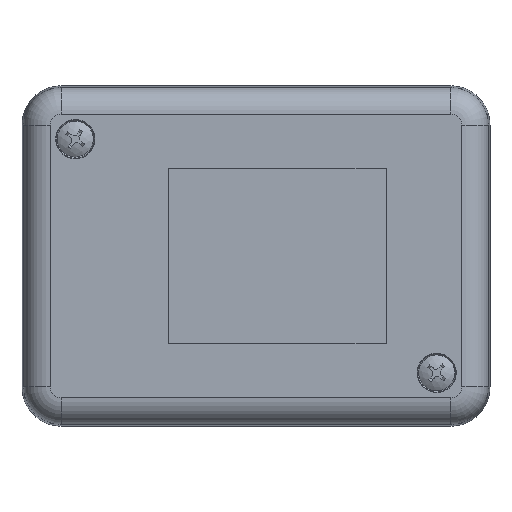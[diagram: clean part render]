
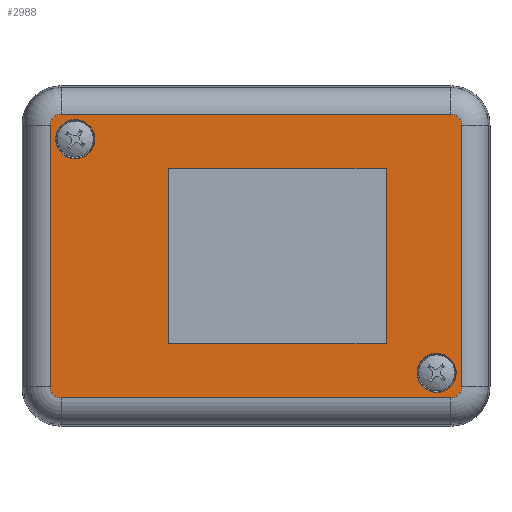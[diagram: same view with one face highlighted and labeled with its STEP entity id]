
A CAD part, front view. The second image highlights one B-rep face of the part: STEP entity #2988.
In plain terms, the highlighted planar face has unit normal (0, -1, 0).
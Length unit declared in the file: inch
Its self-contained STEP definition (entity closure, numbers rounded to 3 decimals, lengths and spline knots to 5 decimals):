
#34 = CIRCLE ( 'NONE', #2732, 0.0633 ) ;
#46 = CARTESIAN_POINT ( 'NONE',  ( 1.2093, -0.356, -0.77 ) ) ;
#62 = VERTEX_POINT ( 'NONE', #324 ) ;
#111 = LINE ( 'NONE', #3750, #3036 ) ;
#182 = FACE_OUTER_BOUND ( 'NONE', #2899, .T. ) ;
#318 = EDGE_CURVE ( 'NONE', #5462, #5580, #2658, .T. ) ;
#324 = CARTESIAN_POINT ( 'NONE',  ( -1.146, -0.356, -0.8333 ) ) ;
#479 = VERTEX_POINT ( 'NONE', #5557 ) ;
#605 = DIRECTION ( 'NONE',  ( 1., 0., 0. ) ) ;
#691 = CARTESIAN_POINT ( 'NONE',  ( -0.515, -0.356, -0.515 ) ) ;
#705 = ORIENTED_EDGE ( 'NONE', *, *, #5304, .T. ) ;
#709 = CIRCLE ( 'NONE', #1928, 0.11512 ) ;
#760 = VERTEX_POINT ( 'NONE', #2541 ) ;
#798 = DIRECTION ( 'NONE',  ( 0., 0., -1. ) ) ;
#805 = ORIENTED_EDGE ( 'NONE', *, *, #2235, .T. ) ;
#833 = LINE ( 'NONE', #4297, #4165 ) ;
#835 = DIRECTION ( 'NONE',  ( -1., 0., 0. ) ) ;
#938 = CARTESIAN_POINT ( 'NONE',  ( -0.515, -0.356, 0.515 ) ) ;
#946 = CARTESIAN_POINT ( 'NONE',  ( -0.515, -0.356, -0.515 ) ) ;
#1301 = DIRECTION ( 'NONE',  ( 0., -1., 0. ) ) ;
#1357 = DIRECTION ( 'NONE',  ( 0., 0., 1. ) ) ;
#1434 = EDGE_CURVE ( 'NONE', #5236, #3830, #2721, .T. ) ;
#1560 = FACE_BOUND ( 'NONE', #4872, .T. ) ;
#1587 = FACE_BOUND ( 'NONE', #1691, .T. ) ;
#1604 = CARTESIAN_POINT ( 'NONE',  ( -1.146, -0.356, -0.77 ) ) ;
#1638 = DIRECTION ( 'NONE',  ( 1., 0., 0. ) ) ;
#1639 = VECTOR ( 'NONE', #2793, 39.37008 ) ;
#1687 = CARTESIAN_POINT ( 'NONE',  ( -1.146, -0.356, 0.77 ) ) ;
#1691 = EDGE_LOOP ( 'NONE', ( #5760 ) ) ;
#1703 = VECTOR ( 'NONE', #605, 39.37008 ) ;
#1735 = VECTOR ( 'NONE', #3926, 39.37008 ) ;
#1746 = CARTESIAN_POINT ( 'NONE',  ( -0.515, -0.356, 0.515 ) ) ;
#1753 = ORIENTED_EDGE ( 'NONE', *, *, #1434, .T. ) ;
#1757 = VERTEX_POINT ( 'NONE', #4096 ) ;
#1770 = VERTEX_POINT ( 'NONE', #2241 ) ;
#1928 = AXIS2_PLACEMENT_3D ( 'NONE', #5636, #4264, #798 ) ;
#2023 = DIRECTION ( 'NONE',  ( 0., 1., 0. ) ) ;
#2077 = VERTEX_POINT ( 'NONE', #3858 ) ;
#2109 = EDGE_CURVE ( 'NONE', #479, #1770, #5651, .T. ) ;
#2115 = CARTESIAN_POINT ( 'NONE',  ( -1.146, -0.356, 0.8333 ) ) ;
#2120 = VERTEX_POINT ( 'NONE', #3144 ) ;
#2179 = CARTESIAN_POINT ( 'NONE',  ( 1.2093, -0.356, 0.77 ) ) ;
#2235 = EDGE_CURVE ( 'NONE', #62, #5236, #2355, .T. ) ;
#2241 = CARTESIAN_POINT ( 'NONE',  ( 0.765, -0.356, -0.515 ) ) ;
#2328 = LINE ( 'NONE', #4502, #1639 ) ;
#2341 = DIRECTION ( 'NONE',  ( 0., 1., 0. ) ) ;
#2355 = LINE ( 'NONE', #2792, #1703 ) ;
#2430 = CARTESIAN_POINT ( 'NONE',  ( 1.146, -0.356, 0.77 ) ) ;
#2462 = EDGE_CURVE ( 'NONE', #5580, #479, #4702, .T. ) ;
#2532 = DIRECTION ( 'NONE',  ( 0., 0., 1. ) ) ;
#2541 = CARTESIAN_POINT ( 'NONE',  ( -1.0625, -0.356, 0.57238 ) ) ;
#2574 = EDGE_CURVE ( 'NONE', #3265, #2120, #34, .T. ) ;
#2615 = DIRECTION ( 'NONE',  ( 0., 0., 1. ) ) ;
#2658 = LINE ( 'NONE', #1746, #3564 ) ;
#2721 = CIRCLE ( 'NONE', #5443, 0.0633 ) ;
#2732 = AXIS2_PLACEMENT_3D ( 'NONE', #3928, #5724, #1357 ) ;
#2792 = CARTESIAN_POINT ( 'NONE',  ( 1.146, -0.356, -0.8333 ) ) ;
#2793 = DIRECTION ( 'NONE',  ( 0., 0., 1. ) ) ;
#2838 = CARTESIAN_POINT ( 'NONE',  ( -1.2093, -0.356, -0.77 ) ) ;
#2860 = FACE_BOUND ( 'NONE', #4205, .T. ) ;
#2890 = PLANE ( 'NONE',  #3583 ) ;
#2899 = EDGE_LOOP ( 'NONE', ( #4120, #3328, #705, #3562, #805, #1753, #3260, #4880 ) ) ;
#2914 = EDGE_CURVE ( 'NONE', #5629, #5629, #4896, .T. ) ;
#2988 = ADVANCED_FACE ( 'NONE', ( #2860, #1587, #1560, #182 ), #2890, .F. ) ;
#3014 = LINE ( 'NONE', #2115, #1735 ) ;
#3036 = VECTOR ( 'NONE', #5463, 39.37008 ) ;
#3063 = DIRECTION ( 'NONE',  ( 0., -1., 0. ) ) ;
#3144 = CARTESIAN_POINT ( 'NONE',  ( 1.146, -0.356, 0.8333 ) ) ;
#3179 = EDGE_CURVE ( 'NONE', #1757, #2077, #4992, .T. ) ;
#3187 = CARTESIAN_POINT ( 'NONE',  ( 1.0625, -0.356, -0.6875 ) ) ;
#3260 = ORIENTED_EDGE ( 'NONE', *, *, #4762, .T. ) ;
#3265 = VERTEX_POINT ( 'NONE', #2179 ) ;
#3305 = AXIS2_PLACEMENT_3D ( 'NONE', #1687, #4359, #2532 ) ;
#3328 = ORIENTED_EDGE ( 'NONE', *, *, #3179, .T. ) ;
#3560 = DIRECTION ( 'NONE',  ( 0., 0., 1. ) ) ;
#3562 = ORIENTED_EDGE ( 'NONE', *, *, #4546, .T. ) ;
#3564 = VECTOR ( 'NONE', #835, 39.37008 ) ;
#3583 = AXIS2_PLACEMENT_3D ( 'NONE', #2430, #2023, #5105 ) ;
#3626 = DIRECTION ( 'NONE',  ( -0.912, 0., -0.41 ) ) ;
#3750 = CARTESIAN_POINT ( 'NONE',  ( -1.2093, -0.356, -0.77 ) ) ;
#3830 = VERTEX_POINT ( 'NONE', #46 ) ;
#3858 = CARTESIAN_POINT ( 'NONE',  ( -1.2093, -0.356, 0.77 ) ) ;
#3892 = CARTESIAN_POINT ( 'NONE',  ( 0.95749, -0.356, -0.73467 ) ) ;
#3926 = DIRECTION ( 'NONE',  ( -1., 0., 0. ) ) ;
#3928 = CARTESIAN_POINT ( 'NONE',  ( 1.146, -0.356, 0.77 ) ) ;
#3981 = CARTESIAN_POINT ( 'NONE',  ( 1.146, -0.356, -0.77 ) ) ;
#4037 = VECTOR ( 'NONE', #1638, 39.37008 ) ;
#4061 = ORIENTED_EDGE ( 'NONE', *, *, #318, .F. ) ;
#4096 = CARTESIAN_POINT ( 'NONE',  ( -1.146, -0.356, 0.8333 ) ) ;
#4120 = ORIENTED_EDGE ( 'NONE', *, *, #5407, .T. ) ;
#4125 = VERTEX_POINT ( 'NONE', #2838 ) ;
#4165 = VECTOR ( 'NONE', #2615, 39.37008 ) ;
#4205 = EDGE_LOOP ( 'NONE', ( #5243, #4858, #4061, #5128 ) ) ;
#4264 = DIRECTION ( 'NONE',  ( 0., -1., 0. ) ) ;
#4266 = CIRCLE ( 'NONE', #5199, 0.0633 ) ;
#4297 = CARTESIAN_POINT ( 'NONE',  ( 0.765, -0.356, -0.515 ) ) ;
#4359 = DIRECTION ( 'NONE',  ( 0., -1., 0. ) ) ;
#4502 = CARTESIAN_POINT ( 'NONE',  ( 1.2093, -0.356, 0.77 ) ) ;
#4546 = EDGE_CURVE ( 'NONE', #4125, #62, #4266, .T. ) ;
#4702 = LINE ( 'NONE', #691, #4709 ) ;
#4709 = VECTOR ( 'NONE', #5209, 39.37008 ) ;
#4762 = EDGE_CURVE ( 'NONE', #3830, #3265, #2328, .T. ) ;
#4858 = ORIENTED_EDGE ( 'NONE', *, *, #2462, .F. ) ;
#4872 = EDGE_LOOP ( 'NONE', ( #5750 ) ) ;
#4880 = ORIENTED_EDGE ( 'NONE', *, *, #2574, .T. ) ;
#4896 = CIRCLE ( 'NONE', #5646, 0.11512 ) ;
#4992 = CIRCLE ( 'NONE', #3305, 0.0633 ) ;
#5054 = CARTESIAN_POINT ( 'NONE',  ( 1.146, -0.356, -0.8333 ) ) ;
#5081 = EDGE_CURVE ( 'NONE', #1770, #5462, #833, .T. ) ;
#5105 = DIRECTION ( 'NONE',  ( 0., 0., 1. ) ) ;
#5128 = ORIENTED_EDGE ( 'NONE', *, *, #5081, .F. ) ;
#5199 = AXIS2_PLACEMENT_3D ( 'NONE', #1604, #1301, #5782 ) ;
#5209 = DIRECTION ( 'NONE',  ( 0., 0., -1. ) ) ;
#5230 = CARTESIAN_POINT ( 'NONE',  ( 0.765, -0.356, 0.515 ) ) ;
#5236 = VERTEX_POINT ( 'NONE', #5054 ) ;
#5243 = ORIENTED_EDGE ( 'NONE', *, *, #2109, .F. ) ;
#5304 = EDGE_CURVE ( 'NONE', #2077, #4125, #111, .T. ) ;
#5407 = EDGE_CURVE ( 'NONE', #2120, #1757, #3014, .T. ) ;
#5443 = AXIS2_PLACEMENT_3D ( 'NONE', #3981, #3063, #3560 ) ;
#5462 = VERTEX_POINT ( 'NONE', #5230 ) ;
#5463 = DIRECTION ( 'NONE',  ( 0., 0., -1. ) ) ;
#5474 = EDGE_CURVE ( 'NONE', #760, #760, #709, .T. ) ;
#5557 = CARTESIAN_POINT ( 'NONE',  ( -0.515, -0.356, -0.515 ) ) ;
#5580 = VERTEX_POINT ( 'NONE', #938 ) ;
#5629 = VERTEX_POINT ( 'NONE', #3892 ) ;
#5636 = CARTESIAN_POINT ( 'NONE',  ( -1.0625, -0.356, 0.6875 ) ) ;
#5646 = AXIS2_PLACEMENT_3D ( 'NONE', #3187, #2341, #3626 ) ;
#5651 = LINE ( 'NONE', #946, #4037 ) ;
#5724 = DIRECTION ( 'NONE',  ( 0., -1., 0. ) ) ;
#5750 = ORIENTED_EDGE ( 'NONE', *, *, #5474, .F. ) ;
#5760 = ORIENTED_EDGE ( 'NONE', *, *, #2914, .T. ) ;
#5782 = DIRECTION ( 'NONE',  ( 0., 0., 1. ) ) ;
